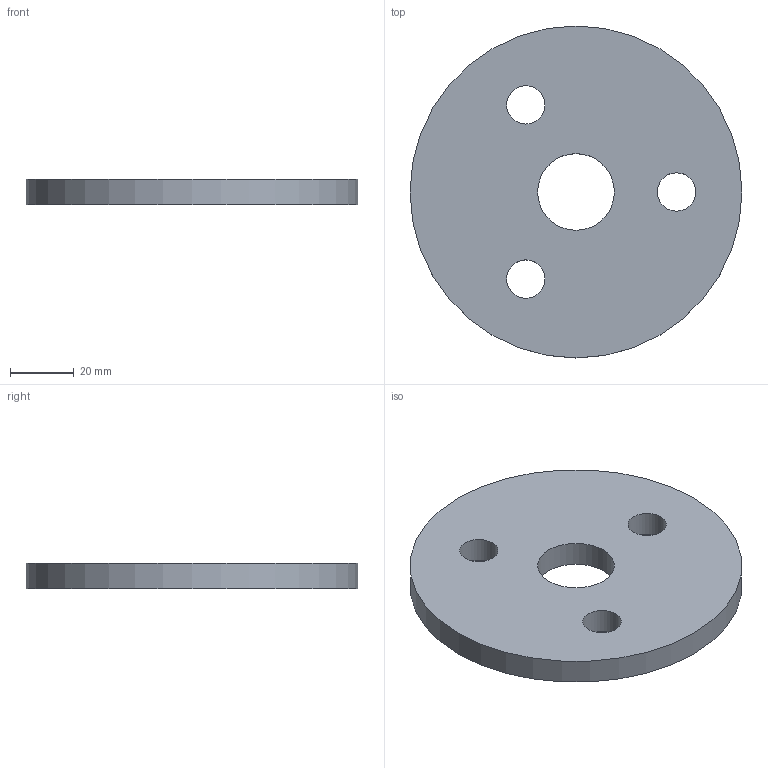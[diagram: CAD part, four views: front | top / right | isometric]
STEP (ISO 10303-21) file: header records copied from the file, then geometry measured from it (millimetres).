
FILE_DESCRIPTION(('FreeCAD Model'),'2;1');
FILE_NAME('Open CASCADE Shape Model','2026-11-05T18:55:07',('FreeCAD'),( 'FreeCAD'),'Open CASCADE STEP processor 7.8','FreeCAD','Unknown');
FILE_SCHEMA(('AUTOMOTIVE_DESIGN { 1 0 10303 214 1 1 1 1 }'));
Length unit declared in the file: millimetre
Products named in the file (1): Open CASCADE STEP translator 7.8 53
Bounding box: 104 x 104 x 8 mm (x, y, z)
Volume: 61625.5 mm3; surface area: 19528.1 mm2
Topology: 1 solids, 1 shells, 7 faces, 15 edges, 10 vertices
Faces by surface type: cylinder 5, plane 2
Full cylindrical faces by diameter (mm): 12 x3, 24 x1, 104 x1
Entity records: 225 total; most frequent: DIRECTION 41, CARTESIAN_POINT 33, ORIENTED_EDGE 30, AXIS2_PLACEMENT_3D 18, FACE_BOUND 15, EDGE_LOOP 15, EDGE_CURVE 15, VERTEX_POINT 10
